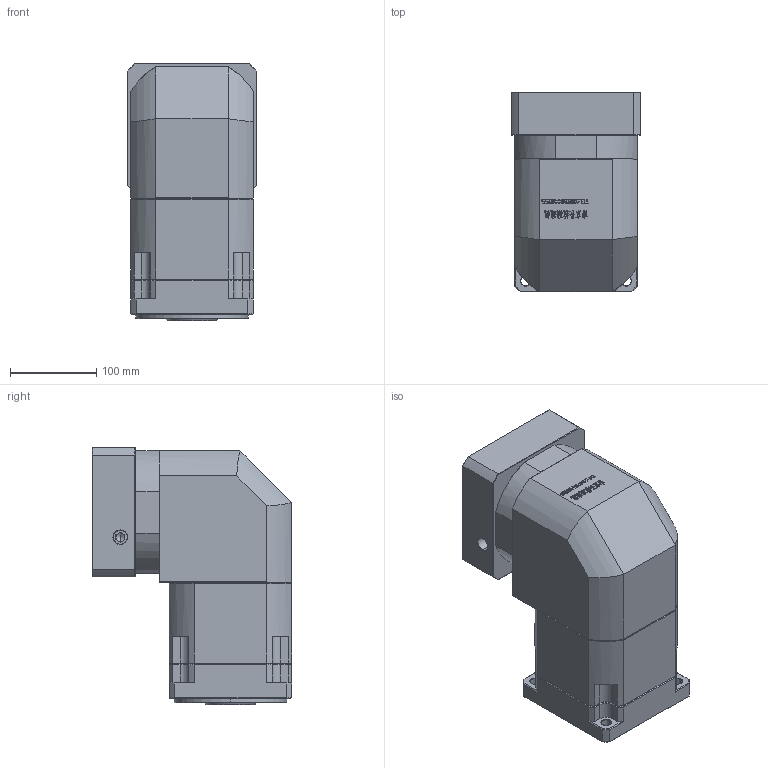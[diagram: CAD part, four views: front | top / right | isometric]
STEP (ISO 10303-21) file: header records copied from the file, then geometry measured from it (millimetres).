
FILE_DESCRIPTION (( 'STEP AP214' ), '1' );
FILE_NAME ('ZBR142A-K35-L2-28-130-165-M10.step', '2023-03-18T09:26:31', ( '' ), ( '' ), 'SwSTEP 2.0', 'SolidWorks 2016', '' );
FILE_SCHEMA (( 'AUTOMOTIVE_DESIGN' ));
Length unit declared in the file: millimetre
Products named in the file (1): ZBR142A-K35-L2-28-130-165-M10
Bounding box: 150 x 231 x 297.7 mm (x, y, z)
Volume: 6104757.2 mm3; surface area: 415124 mm2
Topology: 6 solids, 6 shells, 2856 faces, 7636 edges, 4928 vertices
Faces by surface type: plane 1533, bspline 590, cylinder 387, cone 326, torus 20
Entity records: 157942 total; most frequent: CARTESIAN_POINT 59705, ORIENTED_EDGE 15216, DIRECTION 11532, EDGE_CURVE 7608, LINE 5160, VECTOR 5160, VERTEX_POINT 4928, AXIS2_PLACEMENT_3D 3186
